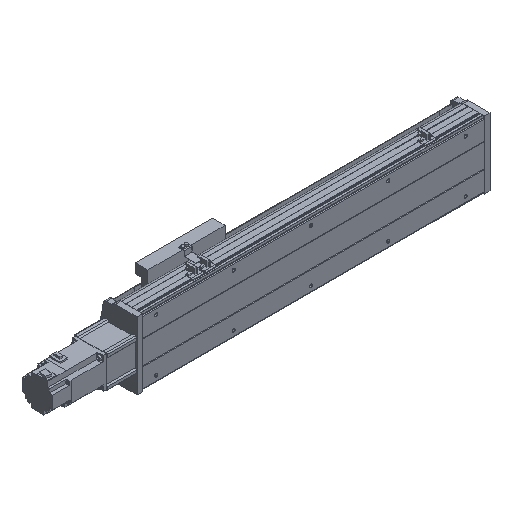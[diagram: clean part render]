
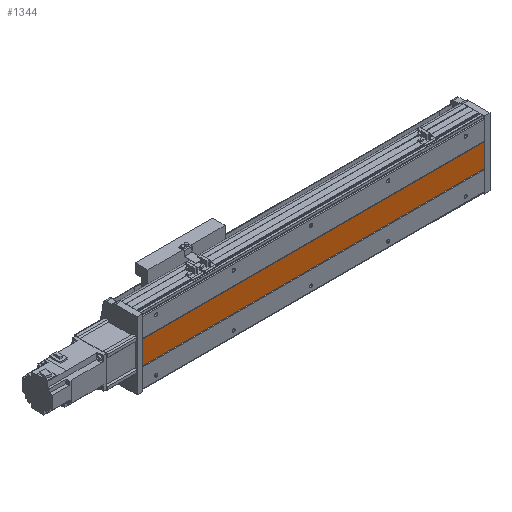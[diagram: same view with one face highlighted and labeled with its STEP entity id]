
A CAD part, isometric view. The second image highlights one B-rep face of the part: STEP entity #1344.
In plain terms, the highlighted planar face has unit normal (0, -1, 0).
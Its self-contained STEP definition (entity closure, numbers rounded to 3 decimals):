
#1344 = ADVANCED_FACE( '', ( #2870 ), #2871, .F. );
#2870 = FACE_OUTER_BOUND( '', #4591, .T. );
#2871 = PLANE( '', #4592 );
#4591 = EDGE_LOOP( '', ( #8245, #8246, #8247, #8248 ) );
#4592 = AXIS2_PLACEMENT_3D( '', #8249, #8250, #8251 );
#8245 = ORIENTED_EDGE( '', *, *, #10960, .F. );
#8246 = ORIENTED_EDGE( '', *, *, #11346, .T. );
#8247 = ORIENTED_EDGE( '', *, *, #10146, .T. );
#8248 = ORIENTED_EDGE( '', *, *, #10013, .F. );
#8249 = CARTESIAN_POINT( '', ( 913., 1., 30. ) );
#8250 = DIRECTION( '', ( 0., 1., 0. ) );
#8251 = DIRECTION( '', ( 0., 0., 1. ) );
#10013 = EDGE_CURVE( '', #11898, #11901, #11902, .T. );
#10146 = EDGE_CURVE( '', #12156, #11901, #12157, .T. );
#10960 = EDGE_CURVE( '', #13488, #11898, #13490, .T. );
#11346 = EDGE_CURVE( '', #13488, #12156, #14023, .T. );
#11898 = VERTEX_POINT( '', #14688 );
#11901 = VERTEX_POINT( '', #14692 );
#11902 = LINE( '', #14693, #14694 );
#12156 = VERTEX_POINT( '', #15097 );
#12157 = LINE( '', #15098, #15099 );
#13488 = VERTEX_POINT( '', #16958 );
#13490 = LINE( '', #16961, #16962 );
#14023 = LINE( '', #17711, #17712 );
#14688 = CARTESIAN_POINT( '', ( 899., 1., -30. ) );
#14692 = CARTESIAN_POINT( '', ( 14., 1., -30. ) );
#14693 = CARTESIAN_POINT( '', ( 913., 1., -30. ) );
#14694 = VECTOR( '', #18429, 1000. );
#15097 = CARTESIAN_POINT( '', ( 14., 1., 30. ) );
#15098 = CARTESIAN_POINT( '', ( 14., 1., 30. ) );
#15099 = VECTOR( '', #18612, 1000. );
#16958 = CARTESIAN_POINT( '', ( 899., 1., 30. ) );
#16961 = CARTESIAN_POINT( '', ( 899., 1., 30. ) );
#16962 = VECTOR( '', #19520, 1000. );
#17711 = CARTESIAN_POINT( '', ( 913., 1., 30. ) );
#17712 = VECTOR( '', #19902, 1000. );
#18429 = DIRECTION( '', ( -1., 0., 0. ) );
#18612 = DIRECTION( '', ( 0., 0., -1. ) );
#19520 = DIRECTION( '', ( 0., 0., -1. ) );
#19902 = DIRECTION( '', ( -1., 0., 0. ) );
